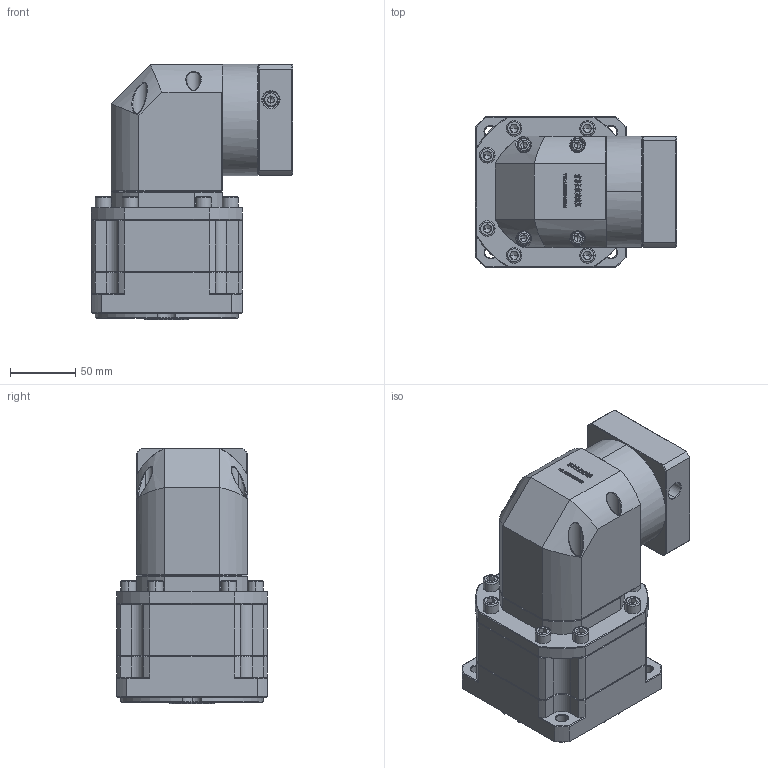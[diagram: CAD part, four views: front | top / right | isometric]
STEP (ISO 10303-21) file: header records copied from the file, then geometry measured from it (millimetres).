
FILE_DESCRIPTION (( 'STEP AP214' ), '1' );
FILE_NAME ('ZBR115A-K25-L2-19-80-100-M6.step', '2023-03-02T14:39:54', ( '' ), ( 'Microsoft' ), 'SwSTEP 2.0', 'SolidWorks 2016', '' );
FILE_SCHEMA (( 'AUTOMOTIVE_DESIGN' ));
Length unit declared in the file: millimetre
Products named in the file (1): ZBR115A-K25-L2-19-80-100-M6
Bounding box: 153.6 x 115 x 195 mm (x, y, z)
Volume: 1895021.5 mm3; surface area: 175488.3 mm2
Topology: 6 solids, 6 shells, 3148 faces, 8262 edges, 5267 vertices
Faces by surface type: plane 1692, bspline 624, cylinder 446, cone 372, torus 14
Entity records: 165600 total; most frequent: CARTESIAN_POINT 58293, ORIENTED_EDGE 16420, DIRECTION 12701, EDGE_CURVE 8210, VECTOR 5541, LINE 5541, VERTEX_POINT 5267, AXIS2_PLACEMENT_3D 3580
